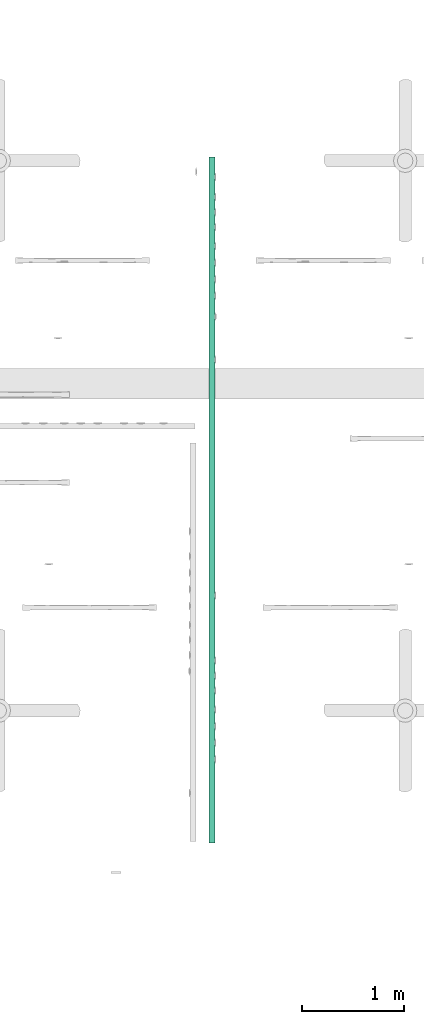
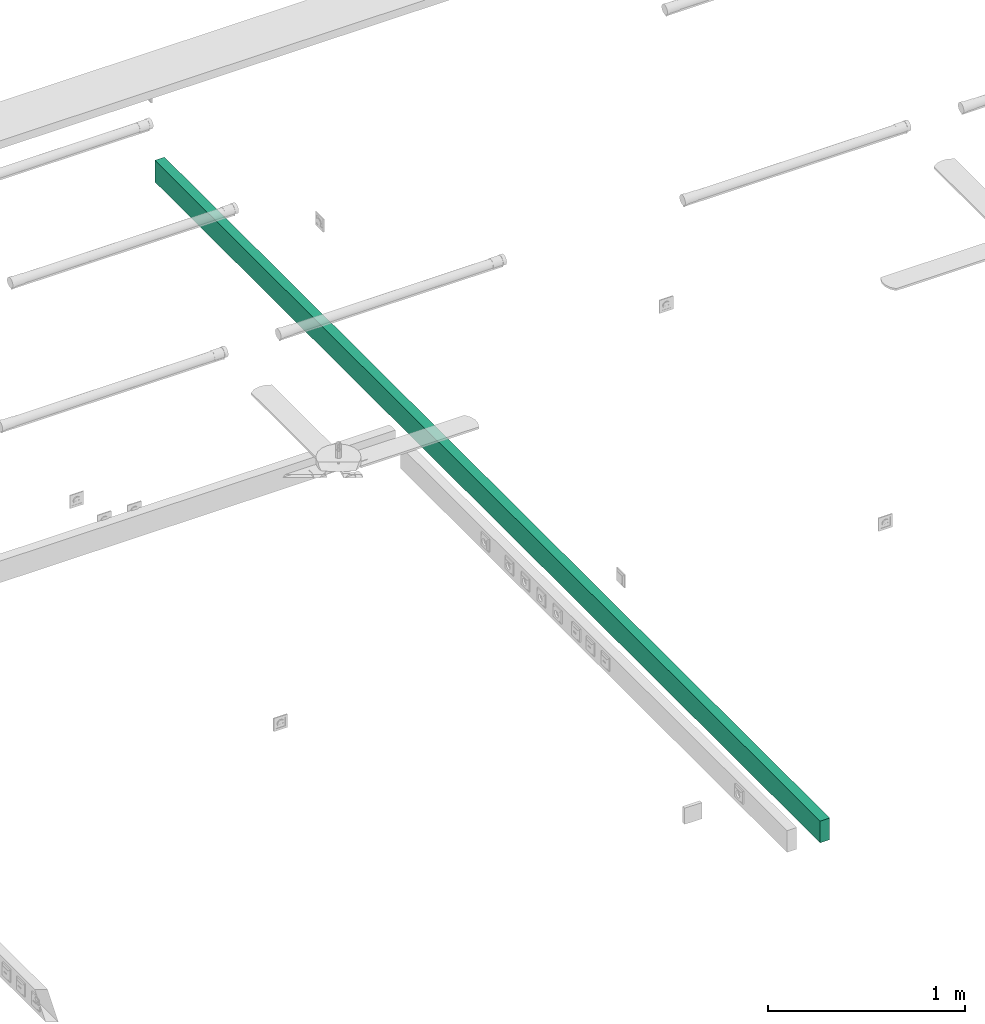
# One storey, part 18 of 166: 1 flow segment.
"""IFC2X3 building model written with IfcOpenShell, lengths in metres."""

from ifc_helpers import new_model, entity, si_unit, converted_unit, derived_unit, direction, frame, origin, origin_2d_with_axis, place, context, subcontext, project, spatial, rectangle, extrude, type_object, element, save


model = new_model("IFC2X3")

# Units and contexts
model_context = context("Model", 3, precision=1e-05, world=origin(), true_north=direction((6.12303176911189e-17, 1.0)))
body_context = subcontext(model_context, "Body", "Model", "MODEL_VIEW")
ifc_project = project(units=[si_unit("LENGTHUNIT", "METRE"), si_unit("AREAUNIT", "SQUARE_METRE"), si_unit("VOLUMEUNIT", "CUBIC_METRE"), converted_unit("PLANEANGLEUNIT", "DEGREE", entity("IfcRatioMeasure", 0.0174532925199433), si_unit("PLANEANGLEUNIT", "RADIAN"), dimensions=[0, 0, 0, 0, 0, 0, 0]), si_unit("MASSUNIT", "GRAM", prefix="KILO"), derived_unit("MASSDENSITYUNIT", [(si_unit("MASSUNIT", "GRAM", prefix="KILO"), 1), (si_unit("LENGTHUNIT", "METRE"), -3)]), si_unit("TIMEUNIT", "SECOND"), si_unit("FREQUENCYUNIT", "HERTZ"), si_unit("THERMODYNAMICTEMPERATUREUNIT", "DEGREE_CELSIUS"), derived_unit("THERMALTRANSMITTANCEUNIT", [(si_unit("MASSUNIT", "GRAM", prefix="KILO"), 1), (si_unit("THERMODYNAMICTEMPERATUREUNIT", "KELVIN"), -1), (si_unit("TIMEUNIT", "SECOND"), -3)]), derived_unit("VOLUMETRICFLOWRATEUNIT", [(si_unit("LENGTHUNIT", "METRE"), 3), (si_unit("TIMEUNIT", "SECOND"), -1)]), si_unit("ELECTRICCURRENTUNIT", "AMPERE"), si_unit("ELECTRICVOLTAGEUNIT", "VOLT"), si_unit("POWERUNIT", "WATT"), si_unit("FORCEUNIT", "NEWTON"), si_unit("ILLUMINANCEUNIT", "LUX"), si_unit("LUMINOUSFLUXUNIT", "LUMEN"), si_unit("LUMINOUSINTENSITYUNIT", "CANDELA"), derived_unit("USERDEFINED", [(si_unit("MASSUNIT", "GRAM", prefix="KILO"), -1), (si_unit("LENGTHUNIT", "METRE"), -2), (si_unit("TIMEUNIT", "SECOND"), 3), (si_unit("LUMINOUSFLUXUNIT", "LUMEN"), 1)]), derived_unit("LINEARVELOCITYUNIT", [(si_unit("LENGTHUNIT", "METRE"), 1), (si_unit("TIMEUNIT", "SECOND"), -1)]), si_unit("PRESSUREUNIT", "PASCAL"), derived_unit("USERDEFINED", [(si_unit("LENGTHUNIT", "METRE"), -2), (si_unit("MASSUNIT", "GRAM", prefix="KILO"), 1), (si_unit("TIMEUNIT", "SECOND"), -2)])], contexts=[model_context])

# Site, building, storey
site_placement = place(None, origin())
site = spatial("IfcSite", under=ifc_project, at=site_placement, Name="Default", CompositionType="ELEMENT")
building_placement = place(site_placement, origin())
building = spatial("IfcBuilding", under=site, at=building_placement, CompositionType="ELEMENT")
storey_placement = place(building_placement, frame((0.0, 0.0, 4.27)))
storey = spatial("IfcBuildingStorey", under=building, at=storey_placement, Name="01", CompositionType="ELEMENT", Elevation=4.27)

# Flow segment
cable_carrier_segment_type = type_object("IfcCableCarrierSegmentType", Name="Cable Tray with Fittings:Goulottes de câbles indéfini_Goulottes de câbles", PredefinedType="NOTDEFINED")
flow_segment_placement = place(storey_placement, origin())
element("IfcFlowSegment", 1, at=flow_segment_placement, inside=storey, type_object=cable_carrier_segment_type, Name="Cable Tray with Fittings:Goulottes de câbles indéfini_Goulottes de câbles", ObjectType="Cable Tray with Fittings:Goulottes de câbles indéfini_Goulottes de câbles", context=body_context, shape_type="SweptSolid", body=[
    extrude(rectangle(XDim=6.73700000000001, YDim=0.0560000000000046, at=origin_2d_with_axis()), frame((65.5817436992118, -189.840936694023, 0.366), z_axis=(0.0, 0.0, 1.0), x_axis=(0.0, -1.0, 0.0)), (0.0, 0.0, 1.0), 0.134),
])

save(model, "model.ifc")
